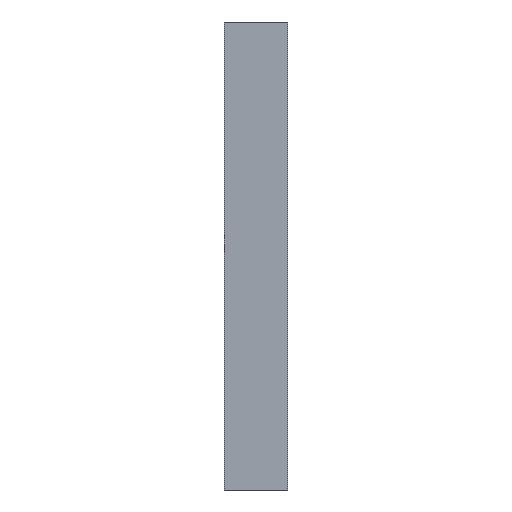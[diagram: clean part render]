
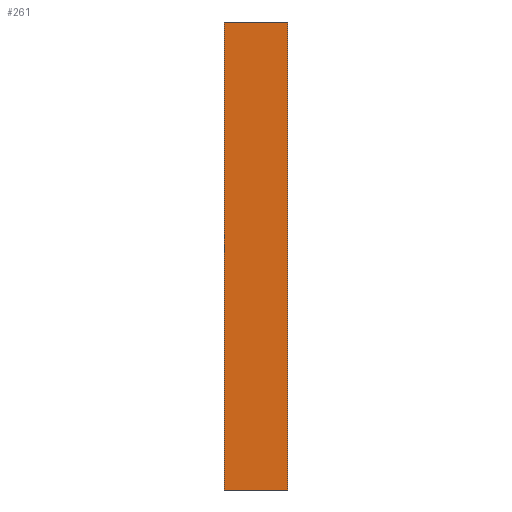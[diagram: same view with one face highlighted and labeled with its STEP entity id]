
A CAD part, front view. The second image highlights one B-rep face of the part: STEP entity #261.
In plain terms, the highlighted planar face has unit normal (0, -1, 0).
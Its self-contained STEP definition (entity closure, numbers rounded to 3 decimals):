
#21 = EDGE_CURVE('',#22,#24,#26,.T.);
#22 = VERTEX_POINT('',#23);
#23 = CARTESIAN_POINT('',(87.,-105.,61.781));
#24 = VERTEX_POINT('',#25);
#25 = CARTESIAN_POINT('',(87.,-105.,83.781));
#26 = LINE('',#27,#28);
#27 = CARTESIAN_POINT('',(87.,-105.,61.781));
#28 = VECTOR('',#29,1.);
#29 = DIRECTION('',(0.,0.,1.));
#261 = ADVANCED_FACE('',(#262),#287,.F.);
#262 = FACE_BOUND('',#263,.F.);
#263 = EDGE_LOOP('',(#264,#272,#273,#281));
#264 = ORIENTED_EDGE('',*,*,#265,.F.);
#265 = EDGE_CURVE('',#22,#266,#268,.T.);
#266 = VERTEX_POINT('',#267);
#267 = CARTESIAN_POINT('',(90.,-105.,61.781));
#268 = LINE('',#269,#270);
#269 = CARTESIAN_POINT('',(87.,-105.,61.781));
#270 = VECTOR('',#271,1.);
#271 = DIRECTION('',(1.,0.,0.));
#272 = ORIENTED_EDGE('',*,*,#21,.T.);
#273 = ORIENTED_EDGE('',*,*,#274,.T.);
#274 = EDGE_CURVE('',#24,#275,#277,.T.);
#275 = VERTEX_POINT('',#276);
#276 = CARTESIAN_POINT('',(90.,-105.,83.781));
#277 = LINE('',#278,#279);
#278 = CARTESIAN_POINT('',(87.,-105.,83.781));
#279 = VECTOR('',#280,1.);
#280 = DIRECTION('',(1.,0.,0.));
#281 = ORIENTED_EDGE('',*,*,#282,.F.);
#282 = EDGE_CURVE('',#266,#275,#283,.T.);
#283 = LINE('',#284,#285);
#284 = CARTESIAN_POINT('',(90.,-105.,61.781));
#285 = VECTOR('',#286,1.);
#286 = DIRECTION('',(0.,0.,1.));
#287 = PLANE('',#288);
#288 = AXIS2_PLACEMENT_3D('',#289,#290,#291);
#289 = CARTESIAN_POINT('',(87.,-105.,61.781));
#290 = DIRECTION('',(0.,1.,0.));
#291 = DIRECTION('',(0.,0.,1.));
